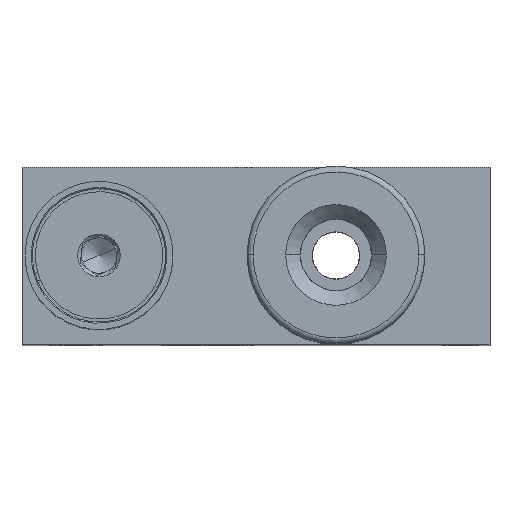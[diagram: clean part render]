
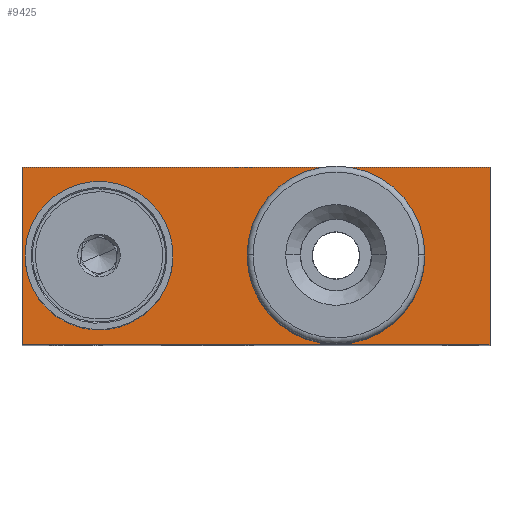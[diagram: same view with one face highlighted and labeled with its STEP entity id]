
A CAD part, top view. The second image highlights one B-rep face of the part: STEP entity #9425.
In plain terms, the highlighted planar face has unit normal (0, 0, 1).
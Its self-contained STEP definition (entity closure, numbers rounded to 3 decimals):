
#241 = ORIENTED_EDGE ( 'NONE', *, *, #31997, .T. ) ;
#1193 = DIRECTION ( 'NONE',  ( 0., 0., -1. ) ) ;
#1501 = EDGE_LOOP ( 'NONE', ( #32801, #41517, #2797, #31765 ) ) ;
#1951 = LINE ( 'NONE', #8117, #25121 ) ;
#2797 = ORIENTED_EDGE ( 'NONE', *, *, #27520, .T. ) ;
#4382 = CARTESIAN_POINT ( 'NONE',  ( 0., 0., 85. ) ) ;
#5831 = DIRECTION ( 'NONE',  ( 0., 1., 0. ) ) ;
#6762 = ORIENTED_EDGE ( 'NONE', *, *, #23988, .T. ) ;
#7727 = LINE ( 'NONE', #33494, #9554 ) ;
#8117 = CARTESIAN_POINT ( 'NONE',  ( -53., -15., 85. ) ) ;
#9300 = LINE ( 'NONE', #28655, #32287 ) ;
#9423 = CARTESIAN_POINT ( 'NONE',  ( 26., -15., 85. ) ) ;
#9425 = ADVANCED_FACE ( 'NONE', ( #31337, #21774 ), #20943, .T. ) ;
#9554 = VECTOR ( 'NONE', #20715, 1000. ) ;
#11273 = VERTEX_POINT ( 'NONE', #9423 ) ;
#11293 = CARTESIAN_POINT ( 'NONE',  ( 0., 13.1, 85. ) ) ;
#11804 = LINE ( 'NONE', #15417, #38069 ) ;
#13721 = VERTEX_POINT ( 'NONE', #27016 ) ;
#14544 = VERTEX_POINT ( 'NONE', #17118 ) ;
#14817 = CARTESIAN_POINT ( 'NONE',  ( 0., -13.1, 85. ) ) ;
#15417 = CARTESIAN_POINT ( 'NONE',  ( 26., 15., 85. ) ) ;
#17118 = CARTESIAN_POINT ( 'NONE',  ( 26., 15., 85. ) ) ;
#17589 = AXIS2_PLACEMENT_3D ( 'NONE', #31349, #33934, #37124 ) ;
#18941 = AXIS2_PLACEMENT_3D ( 'NONE', #33919, #24743, #40509 ) ;
#20294 = EDGE_LOOP ( 'NONE', ( #6762, #241 ) ) ;
#20715 = DIRECTION ( 'NONE',  ( 0., -1., 0. ) ) ;
#20943 = PLANE ( 'NONE',  #18941 ) ;
#21526 = DIRECTION ( 'NONE',  ( 1., 0., 0. ) ) ;
#21774 = FACE_OUTER_BOUND ( 'NONE', #1501, .T. ) ;
#22414 = CIRCLE ( 'NONE', #39446, 13.1 ) ;
#22804 = VERTEX_POINT ( 'NONE', #14817 ) ;
#23988 = EDGE_CURVE ( 'NONE', #22804, #27746, #39993, .T. ) ;
#24743 = DIRECTION ( 'NONE',  ( 0., 0., 1. ) ) ;
#24766 = DIRECTION ( 'NONE',  ( 0., 1., 0. ) ) ;
#25028 = DIRECTION ( 'NONE',  ( -1., 0., 0. ) ) ;
#25121 = VECTOR ( 'NONE', #21526, 1000. ) ;
#25551 = EDGE_CURVE ( 'NONE', #13721, #11273, #1951, .T. ) ;
#26335 = EDGE_CURVE ( 'NONE', #11273, #14544, #11804, .T. ) ;
#27016 = CARTESIAN_POINT ( 'NONE',  ( -53., -15., 85. ) ) ;
#27520 = EDGE_CURVE ( 'NONE', #37965, #13721, #7727, .T. ) ;
#27746 = VERTEX_POINT ( 'NONE', #11293 ) ;
#28655 = CARTESIAN_POINT ( 'NONE',  ( -53., 15., 85. ) ) ;
#31337 = FACE_BOUND ( 'NONE', #20294, .T. ) ;
#31349 = CARTESIAN_POINT ( 'NONE',  ( 0., 0., 85. ) ) ;
#31765 = ORIENTED_EDGE ( 'NONE', *, *, #25551, .T. ) ;
#31997 = EDGE_CURVE ( 'NONE', #27746, #22804, #22414, .T. ) ;
#32287 = VECTOR ( 'NONE', #25028, 1000. ) ;
#32801 = ORIENTED_EDGE ( 'NONE', *, *, #26335, .T. ) ;
#33494 = CARTESIAN_POINT ( 'NONE',  ( -53., 15., 85. ) ) ;
#33919 = CARTESIAN_POINT ( 'NONE',  ( 0., 0., 85. ) ) ;
#33934 = DIRECTION ( 'NONE',  ( 0., 0., -1. ) ) ;
#34545 = EDGE_CURVE ( 'NONE', #14544, #37965, #9300, .T. ) ;
#37124 = DIRECTION ( 'NONE',  ( 0., 1., 0. ) ) ;
#37965 = VERTEX_POINT ( 'NONE', #40216 ) ;
#38069 = VECTOR ( 'NONE', #24766, 1000. ) ;
#39446 = AXIS2_PLACEMENT_3D ( 'NONE', #4382, #1193, #5831 ) ;
#39993 = CIRCLE ( 'NONE', #17589, 13.1 ) ;
#40216 = CARTESIAN_POINT ( 'NONE',  ( -53., 15., 85. ) ) ;
#40509 = DIRECTION ( 'NONE',  ( 1., 0., 0. ) ) ;
#41517 = ORIENTED_EDGE ( 'NONE', *, *, #34545, .T. ) ;
